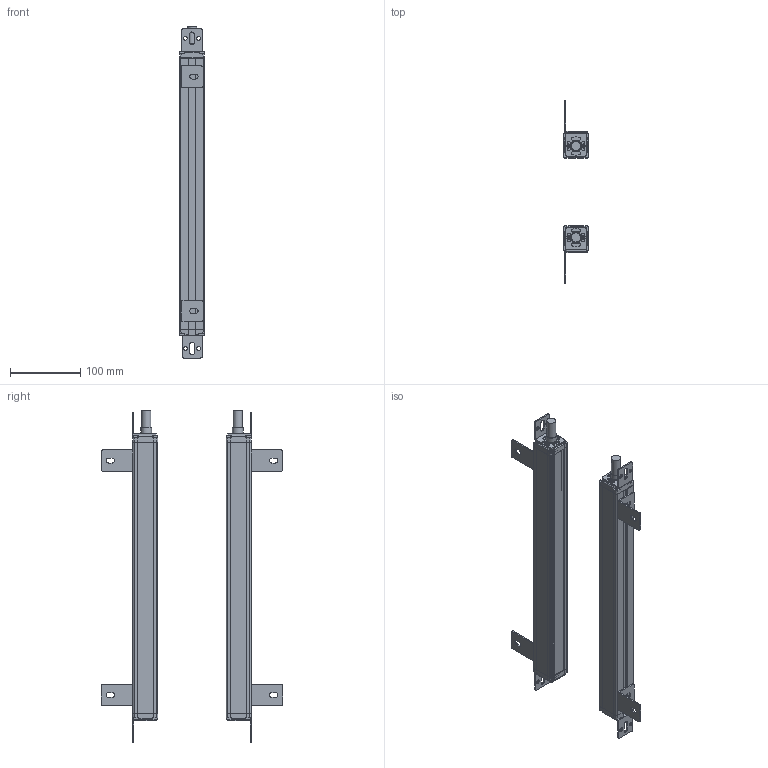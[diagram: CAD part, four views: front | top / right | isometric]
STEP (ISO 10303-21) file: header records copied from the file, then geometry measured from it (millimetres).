
FILE_DESCRIPTION(/* description */ (''),/* implementation_level */ '2;1');
FILE_NAME(/* name */ '3610_35X35_stp_stp.stp',/* time_stamp */ '2023-09-18T17:14:34+08:00',/* author */ (''),/* organization */ (''),/* preprocessor_version */ 'ST-DEVELOPER v16.7',/* originating_system */ 'SIEMENS PLM Software NX 12.0',/* authorisation */ '');
FILE_SCHEMA (('AP203_CONFIGURATION_CONTROLLED_3D_DESIGN_OF_MECHANICAL_PARTS_AND_ASSEMBLIES_MIM_LF { 1 0 10303 403 2 1 2}'));
Length unit declared in the file: millimetre
Products named in the file (1): 0420_35X35_stp_stp
Bounding box: 35.41 x 258.01 x 471.6 mm (x, y, z)
Volume: 425112.5 mm3; surface area: 327676.8 mm2
Topology: 28 solids, 28 shells, 1182 faces, 3360 edges, 2260 vertices
Faces by surface type: plane 658, cylinder 464, cone 60
Full cylindrical faces by diameter (mm): 3.2 x8, 6 x24, 13 x2, 14.4 x2, 15 x2
Entity records: 39055 total; most frequent: DIRECTION 6832, CARTESIAN_POINT 6745, ORIENTED_EDGE 6612, EDGE_CURVE 3306, AXIS2_PLACEMENT_3D 2347, VERTEX_POINT 2244, LINE 2138, VECTOR 2138
